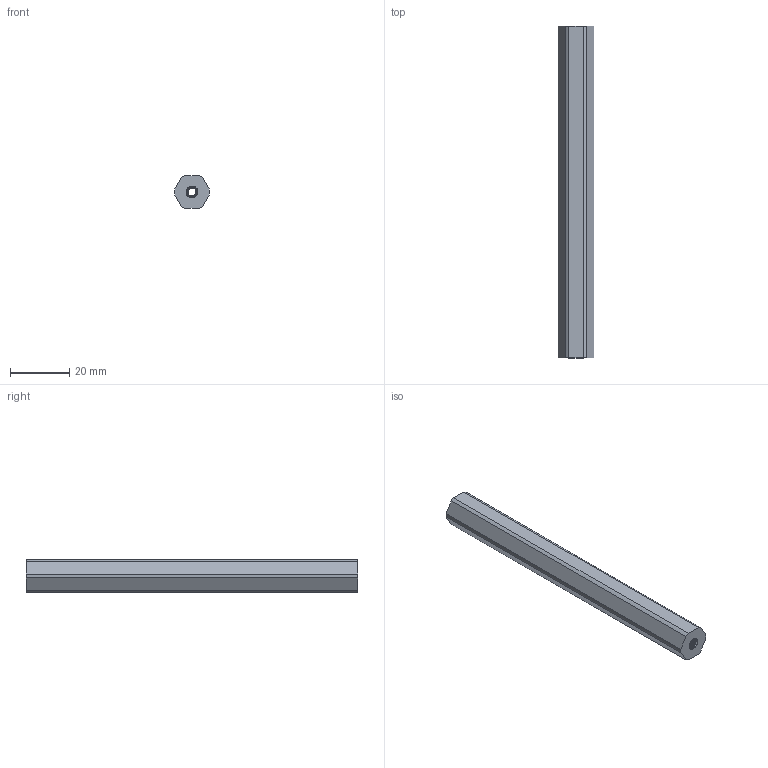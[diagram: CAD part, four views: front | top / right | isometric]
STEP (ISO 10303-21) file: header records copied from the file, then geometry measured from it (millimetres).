
FILE_DESCRIPTION (( 'STEP AP203' ), '1' );
FILE_NAME ('2104-0012-0112.STEP', '2018-03-09T17:44:28', ( '' ), ( '' ), 'SwSTEP 2.0', 'SolidWorks 2016', '' );
FILE_SCHEMA (( 'CONFIG_CONTROL_DESIGN' ));
Length unit declared in the file: millimetre
Products named in the file (1): 2104-0012-0112
Bounding box: 11.99 x 112 x 11 mm (x, y, z)
Volume: 10579 mm3; surface area: 5687.2 mm2
Topology: 1 solids, 1 shells, 190 faces, 558 edges, 370 vertices
Faces by surface type: cylinder 168, plane 10, cone 8, bspline 4
Entity records: 11993 total; most frequent: CARTESIAN_POINT 7843, ORIENTED_EDGE 1116, DIRECTION 624, EDGE_CURVE 558, VERTEX_POINT 370, AXIS2_PLACEMENT_3D 217, EDGE_LOOP 192, VECTOR 190
